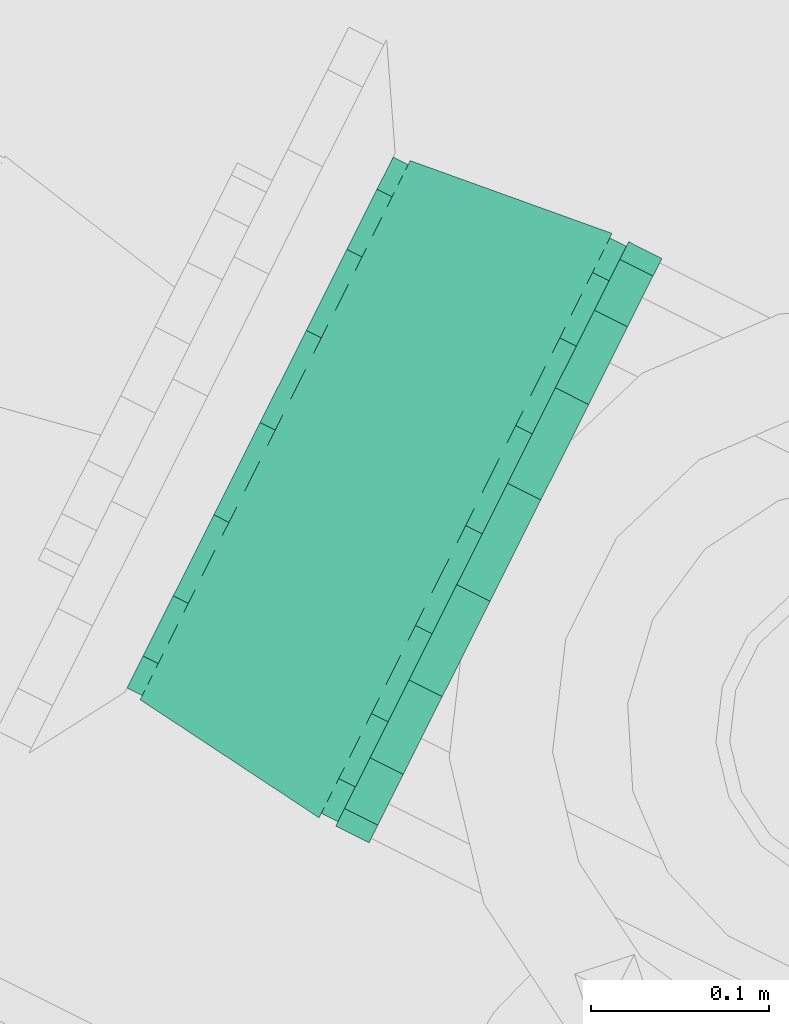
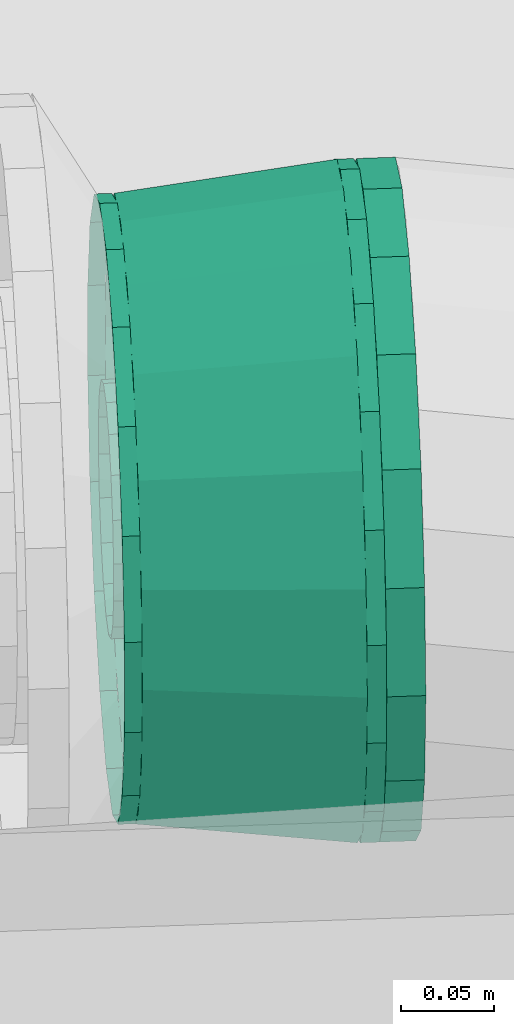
# One storey, part 49 of 206: 1 flow fitting, 1 flow segment.
"""IFC2X3 building model written with IfcOpenShell, lengths in metres."""

from ifc_helpers import new_model, si_unit, derived_unit, direction, frame, origin, place, context, subcontext, project, spatial, face_set, surface_model, source, transform, mapped, material, type_object, type_shapes, element, save


model = new_model("IFC2X3")

# Units and contexts
model_context = context("Model", 3, precision=5.2338327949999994e-05, world=origin(), true_north=direction((0.0, 1.0)))
body_context = subcontext(model_context, "Body", "Model", "MODEL_VIEW")
ifc_project = project(units=[si_unit("LENGTHUNIT", "METRE"), si_unit("AREAUNIT", "SQUARE_METRE"), si_unit("VOLUMEUNIT", "CUBIC_METRE"), si_unit("MASSUNIT", "GRAM", prefix="KILO"), si_unit("PLANEANGLEUNIT", "RADIAN"), derived_unit("THERMALTRANSMITTANCEUNIT", [(si_unit("MASSUNIT", "GRAM", prefix="KILO"), 1), (si_unit("THERMODYNAMICTEMPERATUREUNIT", "KELVIN"), -1), (si_unit("TIMEUNIT", "SECOND"), -3)])], contexts=[model_context])

# Site, building, storey
site_placement = place(None, frame((0.0, 0.0, 0.0), z_axis=(0.0, 0.0, 1.0), x_axis=(0.8939966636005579, -0.4480736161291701, 0.0)))
site = spatial("IfcSite", under=ifc_project, at=site_placement, Name="Default", CompositionType="ELEMENT")
building_placement = place(site_placement, origin())
building = spatial("IfcBuilding", under=site, at=building_placement, CompositionType="ELEMENT")
storey_placement = place(building_placement, origin())
storey = spatial("IfcBuildingStorey", under=building, at=storey_placement, Name="Erdgeschoss", CompositionType="ELEMENT", Elevation=0.0)

# Flow fitting
ifc_material = material(Name="IfcSurfaceStyle #1741")
distribution_element_type_1 = type_object("IfcDistributionElementType", Name="Übergangsstück 318874:Übergangsstück 318874", material=ifc_material)
shared_shape_1 = source(origin(), body_context, "Body", "SurfaceModel", [
    surface_model("IfcFaceBasedSurfaceModel", [(23.784853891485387, 5.395961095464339, 2.42385), (23.784853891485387, 5.372070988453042, 2.4196375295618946), (23.794383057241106, 5.372070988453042, 2.4196375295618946), (23.794383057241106, 5.395961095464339, 2.42385), (23.784853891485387, 5.351062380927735, 2.4075082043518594), (23.794383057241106, 5.351062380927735, 2.4075082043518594), (23.784853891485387, 5.335469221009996, 2.3889250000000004), (23.794383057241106, 5.335469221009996, 2.3889250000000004), (23.784853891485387, 5.327172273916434, 2.366129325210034), (23.794383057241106, 5.327172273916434, 2.366129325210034), (23.784853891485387, 5.327172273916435, 2.3418706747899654), (23.794383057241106, 5.327172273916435, 2.3418706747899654), (23.784853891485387, 5.335469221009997, 2.319075), (23.794383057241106, 5.335469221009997, 2.319075), (23.784853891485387, 5.3510623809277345, 2.30049179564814), (23.794383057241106, 5.3510623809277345, 2.30049179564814), (23.784853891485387, 5.372070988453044, 2.288362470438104), (23.794383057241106, 5.372070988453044, 2.288362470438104), (23.784853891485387, 5.3959610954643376, 2.28415), (23.794383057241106, 5.3959610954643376, 2.28415), (23.784853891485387, 5.419851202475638, 2.2883624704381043), (23.794383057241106, 5.419851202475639, 2.2883624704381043), (23.784853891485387, 5.440859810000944, 2.3004917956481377), (23.794383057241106, 5.440859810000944, 2.3004917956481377), (23.784853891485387, 5.456452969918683, 2.3190749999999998), (23.794383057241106, 5.456452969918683, 2.3190749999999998), (23.784853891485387, 5.464749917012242, 2.341870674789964), (23.794383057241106, 5.464749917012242, 2.341870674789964), (23.784853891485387, 5.46474991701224, 2.366129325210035), (23.794383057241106, 5.46474991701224, 2.366129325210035), (23.784853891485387, 5.456452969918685, 2.3889250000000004), (23.794383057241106, 5.456452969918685, 2.3889250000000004), (23.784853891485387, 5.440859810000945, 2.407508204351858), (23.794383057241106, 5.440859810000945, 2.407508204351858), (23.784853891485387, 5.4198512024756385, 2.419637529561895), (23.794383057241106, 5.4198512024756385, 2.419637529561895), (23.794383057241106, 5.3261110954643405, 2.354), (23.794383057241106, 5.330323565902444, 2.330109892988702), (23.914394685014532, 5.316885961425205, 2.325219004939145), (23.914394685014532, 5.311811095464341, 2.354), (23.794383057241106, 5.3424528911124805, 2.309101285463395), (23.914394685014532, 5.3314984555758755, 2.299909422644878), (23.794383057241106, 5.361036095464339, 2.293508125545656), (23.914394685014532, 5.353886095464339, 2.2811239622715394), (23.794383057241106, 5.383831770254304, 2.2852111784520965), (23.914394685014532, 5.381348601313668, 2.2711284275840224), (23.794383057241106, 5.408090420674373, 2.2852111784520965), (23.914394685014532, 5.410573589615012, 2.271128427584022), (23.794383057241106, 5.43088609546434, 2.293508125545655), (23.914394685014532, 5.438036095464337, 2.281123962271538), (23.794383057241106, 5.449469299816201, 2.309101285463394), (23.914394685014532, 5.460423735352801, 2.2999094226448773), (23.794383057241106, 5.461598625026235, 2.3301098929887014), (23.914394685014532, 5.475036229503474, 2.3252190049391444), (23.794383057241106, 5.465811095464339, 2.354), (23.914394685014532, 5.480111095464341, 2.3539999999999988), (23.794383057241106, 5.4615986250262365, 2.3778901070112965), (23.914394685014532, 5.475036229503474, 2.382780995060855), (23.794383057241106, 5.449469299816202, 2.3988987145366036), (23.914394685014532, 5.460423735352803, 2.408090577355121), (23.794383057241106, 5.430886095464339, 2.4144918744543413), (23.914394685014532, 5.438036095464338, 2.426876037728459), (23.794383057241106, 5.408090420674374, 2.422788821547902), (23.914394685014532, 5.410573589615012, 2.436871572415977), (23.794383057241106, 5.383831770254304, 2.422788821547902), (23.914394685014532, 5.381348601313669, 2.4368715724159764), (23.794383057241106, 5.361036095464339, 2.4144918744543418), (23.914394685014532, 5.35388609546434, 2.426876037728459), (23.794383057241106, 5.3424528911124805, 2.398898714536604), (23.914394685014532, 5.331498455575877, 2.4080905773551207), (23.794383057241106, 5.330323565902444, 2.3778901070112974), (23.914394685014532, 5.316885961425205, 2.382780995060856), (23.914394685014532, 5.395961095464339, 2.438149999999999), (23.914394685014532, 5.367180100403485, 2.4330751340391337), (23.924853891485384, 5.367180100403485, 2.4330751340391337), (23.924853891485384, 5.395961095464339, 2.438149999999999), (23.914394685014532, 5.341870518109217, 2.418462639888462), (23.924853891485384, 5.341870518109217, 2.418462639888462), (23.914394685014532, 5.32308505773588, 2.396075), (23.924853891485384, 5.32308505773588, 2.396075), (23.914394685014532, 5.313089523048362, 2.3686124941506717), (23.924853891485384, 5.313089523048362, 2.3686124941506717), (23.914394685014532, 5.31308952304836, 2.339387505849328), (23.924853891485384, 5.31308952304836, 2.339387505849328), (23.914394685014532, 5.32308505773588, 2.3119249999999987), (23.924853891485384, 5.32308505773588, 2.3119249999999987), (23.914394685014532, 5.341870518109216, 2.289537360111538), (23.924853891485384, 5.341870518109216, 2.289537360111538), (23.914394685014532, 5.367180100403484, 2.2749248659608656), (23.924853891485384, 5.367180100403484, 2.2749248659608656), (23.914394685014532, 5.3959610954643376, 2.26985), (23.924853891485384, 5.3959610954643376, 2.26985), (23.914394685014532, 5.424742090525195, 2.274924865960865), (23.924853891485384, 5.424742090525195, 2.274924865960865), (23.914394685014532, 5.450051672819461, 2.2895373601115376), (23.924853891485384, 5.450051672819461, 2.2895373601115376), (23.914394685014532, 5.4688371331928, 2.3119249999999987), (23.924853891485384, 5.4688371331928, 2.3119249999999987), (23.914394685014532, 5.478832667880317, 2.339387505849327), (23.924853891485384, 5.478832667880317, 2.339387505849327), (23.914394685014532, 5.478832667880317, 2.3686124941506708), (23.924853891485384, 5.478832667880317, 2.3686124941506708), (23.914394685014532, 5.468837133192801, 2.3960750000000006), (23.924853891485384, 5.468837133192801, 2.3960750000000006), (23.914394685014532, 5.450051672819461, 2.4184626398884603), (23.924853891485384, 5.450051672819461, 2.4184626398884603), (23.914394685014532, 5.4247420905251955, 2.4330751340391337), (23.924853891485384, 5.4247420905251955, 2.4330751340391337), (23.784853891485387, 5.39596109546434, 2.5238499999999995), (23.784853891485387, 5.337868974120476, 2.513606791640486), (23.794383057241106, 5.337868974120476, 2.513606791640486), (23.794383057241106, 5.39596109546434, 2.5238499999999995), (23.784853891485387, 5.28678361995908, 2.4841126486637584), (23.794383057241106, 5.28678361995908, 2.4841126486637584), (23.784853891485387, 5.248866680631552, 2.4389250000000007), (23.794383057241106, 5.248866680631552, 2.4389250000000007), (23.784853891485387, 5.228691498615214, 2.383494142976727), (23.794383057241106, 5.228691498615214, 2.383494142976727), (23.784853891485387, 5.228691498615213, 2.3245058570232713), (23.794383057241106, 5.228691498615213, 2.3245058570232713), (23.784853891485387, 5.248866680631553, 2.269075), (23.794383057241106, 5.248866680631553, 2.269075), (23.784853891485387, 5.2867836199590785, 2.2238873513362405), (23.794383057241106, 5.2867836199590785, 2.2238873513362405), (23.784853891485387, 5.337868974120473, 2.1943932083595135), (23.794383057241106, 5.337868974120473, 2.1943932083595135), (23.784853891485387, 5.395961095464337, 2.1841499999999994), (23.794383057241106, 5.395961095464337, 2.1841499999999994), (23.784853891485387, 5.454053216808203, 2.1943932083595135), (23.794383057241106, 5.454053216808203, 2.1943932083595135), (23.784853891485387, 5.505138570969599, 2.2238873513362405), (23.794383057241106, 5.505138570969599, 2.2238873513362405), (23.784853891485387, 5.543055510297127, 2.2690749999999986), (23.794383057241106, 5.543055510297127, 2.2690749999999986), (23.784853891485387, 5.563230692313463, 2.3245058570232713), (23.794383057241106, 5.563230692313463, 2.3245058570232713), (23.784853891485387, 5.563230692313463, 2.3834941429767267), (23.794383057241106, 5.563230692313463, 2.3834941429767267), (23.784853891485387, 5.543055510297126, 2.4389249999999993), (23.794383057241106, 5.543055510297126, 2.4389249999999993), (23.784853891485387, 5.5051385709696, 2.484112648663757), (23.794383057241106, 5.5051385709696, 2.484112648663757), (23.784853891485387, 5.454053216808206, 2.513606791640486), (23.794383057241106, 5.454053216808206, 2.513606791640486), (23.794383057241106, 5.226111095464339, 2.3540000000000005), (23.794383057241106, 5.2363543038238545, 2.295907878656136), (23.914394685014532, 5.222916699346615, 2.2910169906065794), (23.914394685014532, 5.211811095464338, 2.3540000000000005), (23.794383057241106, 5.2658484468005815, 2.244822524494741), (23.914394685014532, 5.254894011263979, 2.235630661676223), (23.794383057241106, 5.311036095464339, 2.2069055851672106), (23.914394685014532, 5.303886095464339, 2.1945214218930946), (23.794383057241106, 5.366466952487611, 2.186730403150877), (23.914394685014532, 5.363983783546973, 2.172647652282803), (23.794383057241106, 5.425455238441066, 2.1867304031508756), (23.914394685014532, 5.4279384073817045, 2.1726476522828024), (23.794383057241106, 5.480886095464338, 2.206905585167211), (23.914394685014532, 5.488036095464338, 2.1945214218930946), (23.794383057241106, 5.526073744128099, 2.2448225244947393), (23.914394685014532, 5.5370281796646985, 2.235630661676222), (23.794383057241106, 5.555567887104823, 2.295907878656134), (23.914394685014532, 5.569005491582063, 2.291016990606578), (23.794383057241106, 5.5658110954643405, 2.353999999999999), (23.914394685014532, 5.580111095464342, 2.353999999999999), (23.794383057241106, 5.555567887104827, 2.4120921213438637), (23.914394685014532, 5.5690054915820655, 2.4169830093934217), (23.794383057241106, 5.526073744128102, 2.463177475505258), (23.914394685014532, 5.5370281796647, 2.4723693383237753), (23.794383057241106, 5.48088609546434, 2.501094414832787), (23.914394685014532, 5.48803609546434, 2.513478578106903), (23.794383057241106, 5.425455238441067, 2.521269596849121), (23.914394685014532, 5.427938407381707, 2.5353523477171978), (23.794383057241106, 5.366466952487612, 2.521269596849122), (23.914394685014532, 5.363983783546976, 2.5353523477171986), (23.794383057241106, 5.311036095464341, 2.501094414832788), (23.914394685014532, 5.3038860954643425, 2.513478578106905), (23.794383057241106, 5.26584844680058, 2.4631774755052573), (23.914394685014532, 5.254894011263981, 2.472369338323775), (23.794383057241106, 5.236354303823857, 2.412092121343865), (23.914394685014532, 5.222916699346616, 2.4169830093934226), (23.914394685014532, 5.395961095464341, 2.538149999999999), (23.914394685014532, 5.332978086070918, 2.527044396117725), (23.924853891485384, 5.332978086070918, 2.527044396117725), (23.924853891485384, 5.395961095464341, 2.538149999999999), (23.914394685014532, 5.277591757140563, 2.4950670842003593), (23.924853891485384, 5.277591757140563, 2.4950670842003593), (23.914394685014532, 5.236482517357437, 2.4460749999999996), (23.924853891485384, 5.236482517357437, 2.4460749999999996), (23.914394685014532, 5.214608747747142, 2.3859773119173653), (23.924853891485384, 5.214608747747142, 2.3859773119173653), (23.914394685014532, 5.214608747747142, 2.322022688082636), (23.924853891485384, 5.214608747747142, 2.322022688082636), (23.914394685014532, 5.2364825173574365, 2.2619249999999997), (23.924853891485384, 5.2364825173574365, 2.2619249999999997), (23.914394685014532, 5.277591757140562, 2.21293291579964), (23.924853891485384, 5.277591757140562, 2.21293291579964), (23.914394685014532, 5.3329780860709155, 2.1809556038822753), (23.924853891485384, 5.3329780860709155, 2.1809556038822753), (23.914394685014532, 5.3959610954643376, 2.1698500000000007), (23.924853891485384, 5.3959610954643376, 2.1698500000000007), (23.914394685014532, 5.458944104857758, 2.180955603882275), (23.924853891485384, 5.458944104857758, 2.180955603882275), (23.914394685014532, 5.514330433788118, 2.2129329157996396), (23.924853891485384, 5.514330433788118, 2.2129329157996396), (23.914394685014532, 5.555439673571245, 2.261924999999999), (23.924853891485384, 5.555439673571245, 2.261924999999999), (23.914394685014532, 5.577313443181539, 2.3220226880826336), (23.924853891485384, 5.577313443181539, 2.3220226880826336), (23.914394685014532, 5.577313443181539, 2.3859773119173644), (23.924853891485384, 5.577313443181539, 2.3859773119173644), (23.914394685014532, 5.555439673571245, 2.4460749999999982), (23.924853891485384, 5.555439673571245, 2.4460749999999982), (23.914394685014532, 5.5143304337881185, 2.4950670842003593), (23.924853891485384, 5.5143304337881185, 2.4950670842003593), (23.914394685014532, 5.458944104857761, 2.5270443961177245), (23.924853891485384, 5.458944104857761, 2.5270443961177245)], [face_set([[[0, 1, 2, 3]], [[1, 4, 5, 2]], [[4, 6, 7, 5]], [[6, 8, 9, 7]], [[8, 10, 11, 9]], [[10, 12, 13, 11]], [[12, 14, 15, 13]], [[14, 16, 17, 15]], [[16, 18, 19, 17]], [[18, 20, 21, 19]], [[20, 22, 23, 21]], [[22, 24, 25, 23]], [[24, 26, 27, 25]], [[26, 28, 29, 27]], [[28, 30, 31, 29]], [[30, 32, 33, 31]], [[32, 34, 35, 33]], [[34, 0, 3, 35]], [[36, 37, 38, 39]], [[37, 40, 41, 38]], [[40, 42, 43, 41]], [[42, 44, 45, 43]], [[44, 46, 47, 45]], [[46, 48, 49, 47]], [[48, 50, 51, 49]], [[50, 52, 53, 51]], [[52, 54, 55, 53]], [[54, 56, 57, 55]], [[56, 58, 59, 57]], [[58, 60, 61, 59]], [[60, 62, 63, 61]], [[62, 64, 65, 63]], [[64, 66, 67, 65]], [[66, 68, 69, 67]], [[68, 70, 71, 69]], [[70, 36, 39, 71]], [[72, 73, 74, 75]], [[73, 76, 77, 74]], [[76, 78, 79, 77]], [[78, 80, 81, 79]], [[80, 82, 83, 81]], [[82, 84, 85, 83]], [[84, 86, 87, 85]], [[86, 88, 89, 87]], [[88, 90, 91, 89]], [[90, 92, 93, 91]], [[92, 94, 95, 93]], [[94, 96, 97, 95]], [[96, 98, 99, 97]], [[98, 100, 101, 99]], [[100, 102, 103, 101]], [[102, 104, 105, 103]], [[104, 106, 107, 105]], [[106, 72, 75, 107]], [[108, 109, 110, 111]], [[109, 112, 113, 110]], [[112, 114, 115, 113]], [[114, 116, 117, 115]], [[116, 118, 119, 117]], [[118, 120, 121, 119]], [[120, 122, 123, 121]], [[122, 124, 125, 123]], [[124, 126, 127, 125]], [[126, 128, 129, 127]], [[128, 130, 131, 129]], [[130, 132, 133, 131]], [[132, 134, 135, 133]], [[134, 136, 137, 135]], [[136, 138, 139, 137]], [[138, 140, 141, 139]], [[140, 142, 143, 141]], [[142, 108, 111, 143]], [[144, 145, 146, 147]], [[145, 148, 149, 146]], [[148, 150, 151, 149]], [[150, 152, 153, 151]], [[152, 154, 155, 153]], [[154, 156, 157, 155]], [[156, 158, 159, 157]], [[158, 160, 161, 159]], [[160, 162, 163, 161]], [[162, 164, 165, 163]], [[164, 166, 167, 165]], [[166, 168, 169, 167]], [[168, 170, 171, 169]], [[170, 172, 173, 171]], [[172, 174, 175, 173]], [[174, 176, 177, 175]], [[176, 178, 179, 177]], [[178, 144, 147, 179]], [[180, 181, 182, 183]], [[181, 184, 185, 182]], [[184, 186, 187, 185]], [[186, 188, 189, 187]], [[188, 190, 191, 189]], [[190, 192, 193, 191]], [[192, 194, 195, 193]], [[194, 196, 197, 195]], [[196, 198, 199, 197]], [[198, 200, 201, 199]], [[200, 202, 203, 201]], [[202, 204, 205, 203]], [[204, 206, 207, 205]], [[206, 208, 209, 207]], [[208, 210, 211, 209]], [[210, 212, 213, 211]], [[212, 214, 215, 213]], [[214, 180, 183, 215]]])]),
])
type_shapes(distribution_element_type_1, [shared_shape_1])
flow_fitting_placement = place(storey_placement, origin())
element("IfcFlowFitting", 1, at=flow_fitting_placement, inside=storey, type_object=distribution_element_type_1, material=ifc_material, Name="Übergangsstück", ObjectType="Übergangsstück", context=body_context, shape_type="MappedRepresentation", body=[
    mapped(shared_shape_1, transform((0.0, 0.0, 0.0), scale=1.0)),
])

# Flow segment
distribution_element_type_2 = type_object("IfcDistributionElementType", Name="Stahlrohr nach DIN 2448 318897:Stahlrohr nach DIN 2448 318897", material=ifc_material)
shared_shape_2 = source(origin(), body_context, "Body", "SurfaceModel", [
    surface_model("IfcFaceBasedSurfaceModel", [(23.945821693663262, 5.4801110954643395, 2.354), (23.945821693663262, 5.4750362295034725, 2.325219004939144), (23.924853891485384, 5.475036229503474, 2.325219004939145), (23.924853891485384, 5.480111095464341, 2.3540000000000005), (23.945821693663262, 5.4604237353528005, 2.2999094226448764), (23.924853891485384, 5.460423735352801, 2.299909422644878), (23.945821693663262, 5.438036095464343, 2.2811239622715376), (23.924853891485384, 5.43803609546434, 2.2811239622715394), (23.945821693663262, 5.410573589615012, 2.2711284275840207), (23.924853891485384, 5.410573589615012, 2.271128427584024), (23.945821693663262, 5.38134860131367, 2.271128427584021), (23.924853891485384, 5.381348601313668, 2.2711284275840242), (23.945821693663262, 5.353886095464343, 2.2811239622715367), (23.924853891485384, 5.35388609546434, 2.2811239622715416), (23.945821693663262, 5.331498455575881, 2.299909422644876), (23.924853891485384, 5.331498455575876, 2.2999094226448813), (23.945821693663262, 5.316885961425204, 2.325219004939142), (23.924853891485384, 5.316885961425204, 2.3252190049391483), (23.945821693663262, 5.311811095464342, 2.353999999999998), (23.924853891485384, 5.311811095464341, 2.354000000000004), (23.945821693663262, 5.3168859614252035, 2.382780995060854), (23.924853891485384, 5.316885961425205, 2.3827809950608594), (23.945821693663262, 5.331498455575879, 2.408090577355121), (23.924853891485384, 5.331498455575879, 2.4080905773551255), (23.945821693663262, 5.35388609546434, 2.4268760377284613), (23.924853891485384, 5.35388609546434, 2.426876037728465), (23.945821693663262, 5.381348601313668, 2.436871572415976), (23.924853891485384, 5.38134860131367, 2.4368715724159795), (23.945821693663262, 5.4105735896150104, 2.436871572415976), (23.924853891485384, 5.410573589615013, 2.4368715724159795), (23.945821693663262, 5.438036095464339, 2.426876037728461), (23.924853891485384, 5.43803609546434, 2.426876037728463), (23.945821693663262, 5.4604237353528, 2.408090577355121), (23.924853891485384, 5.460423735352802, 2.408090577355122), (23.945821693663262, 5.4750362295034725, 2.3827809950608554), (23.924853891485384, 5.475036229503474, 2.382780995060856), (23.945821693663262, 5.58011109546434, 2.3540000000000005), (23.945821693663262, 5.5690054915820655, 2.291016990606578), (23.924853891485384, 5.569005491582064, 2.2910169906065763), (23.924853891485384, 5.580111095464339, 2.3539999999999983), (23.945821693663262, 5.537028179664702, 2.2356306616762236), (23.924853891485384, 5.5370281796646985, 2.2356306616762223), (23.945821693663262, 5.488036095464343, 2.1945214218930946), (23.924853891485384, 5.488036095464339, 2.1945214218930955), (23.945821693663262, 5.427938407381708, 2.1726476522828), (23.924853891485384, 5.427938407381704, 2.1726476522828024), (23.945821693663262, 5.363983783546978, 2.1726476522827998), (23.924853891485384, 5.363983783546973, 2.1726476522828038), (23.945821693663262, 5.3038860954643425, 2.194521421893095), (23.924853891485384, 5.303886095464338, 2.194521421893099), (23.945821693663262, 5.254894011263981, 2.235630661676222), (23.924853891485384, 5.254894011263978, 2.235630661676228), (23.945821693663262, 5.222916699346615, 2.291016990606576), (23.924853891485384, 5.222916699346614, 2.291016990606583), (23.945821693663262, 5.211811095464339, 2.353999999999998), (23.924853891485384, 5.211811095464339, 2.3540000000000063), (23.945821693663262, 5.222916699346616, 2.4169830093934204), (23.924853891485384, 5.222916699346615, 2.416983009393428), (23.945821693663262, 5.254894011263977, 2.4723693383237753), (23.924853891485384, 5.254894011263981, 2.4723693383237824), (23.945821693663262, 5.303886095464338, 2.513478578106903), (23.924853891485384, 5.3038860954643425, 2.513478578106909), (23.945821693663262, 5.363983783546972, 2.5353523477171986), (23.924853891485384, 5.363983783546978, 2.535352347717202), (23.945821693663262, 5.427938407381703, 2.535352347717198), (23.924853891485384, 5.427938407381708, 2.535352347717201), (23.945821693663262, 5.488036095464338, 2.5134785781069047), (23.924853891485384, 5.488036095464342, 2.513478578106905), (23.945821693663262, 5.537028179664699, 2.472369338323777), (23.924853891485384, 5.537028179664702, 2.4723693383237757), (23.945821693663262, 5.569005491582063, 2.4169830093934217), (23.924853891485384, 5.569005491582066, 2.4169830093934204)], [face_set([[[0, 1, 2, 3]], [[1, 4, 5, 2]], [[4, 6, 7, 5]], [[6, 8, 9, 7]], [[8, 10, 11, 9]], [[10, 12, 13, 11]], [[12, 14, 15, 13]], [[14, 16, 17, 15]], [[16, 18, 19, 17]], [[18, 20, 21, 19]], [[20, 22, 23, 21]], [[22, 24, 25, 23]], [[24, 26, 27, 25]], [[26, 28, 29, 27]], [[28, 30, 31, 29]], [[30, 32, 33, 31]], [[32, 34, 35, 33]], [[34, 0, 3, 35]], [[36, 37, 38, 39]], [[37, 40, 41, 38]], [[40, 42, 43, 41]], [[42, 44, 45, 43]], [[44, 46, 47, 45]], [[46, 48, 49, 47]], [[48, 50, 51, 49]], [[50, 52, 53, 51]], [[52, 54, 55, 53]], [[54, 56, 57, 55]], [[56, 58, 59, 57]], [[58, 60, 61, 59]], [[60, 62, 63, 61]], [[62, 64, 65, 63]], [[64, 66, 67, 65]], [[66, 68, 69, 67]], [[68, 70, 71, 69]], [[70, 36, 39, 71]]])]),
])
type_shapes(distribution_element_type_2, [shared_shape_2])
flow_segment_placement = place(storey_placement, origin())
element("IfcFlowSegment", 2, at=flow_segment_placement, inside=storey, type_object=distribution_element_type_2, material=ifc_material, Name="Stahlrohr nach DIN 2448", ObjectType="Stahlrohr nach DIN 2448", context=body_context, shape_type="MappedRepresentation", body=[
    mapped(shared_shape_2, transform((0.0, 0.0, 0.0), scale=1.0)),
])

save(model, "model.ifc")
